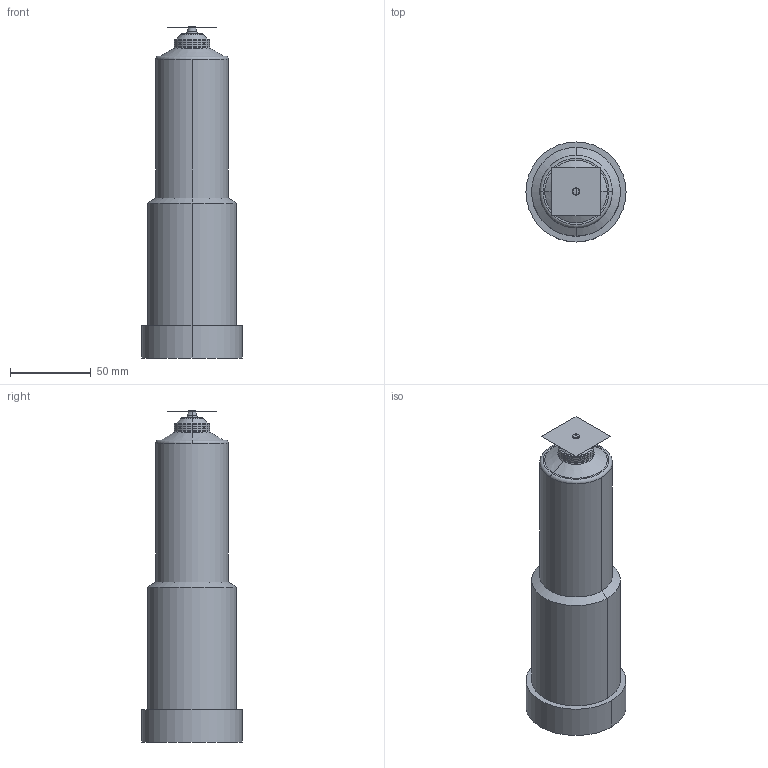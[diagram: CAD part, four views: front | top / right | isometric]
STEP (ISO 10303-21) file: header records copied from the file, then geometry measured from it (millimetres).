
FILE_DESCRIPTION (( 'STEP AP214' ), '1' );
FILE_NAME ('16EX22-03-205-VTW.STEP', '2022-03-09T13:46:23', ( '' ), ( '' ), 'SwSTEP 2.0', 'SolidWorks 2018', '' );
FILE_SCHEMA (( 'AUTOMOTIVE_DESIGN' ));
Length unit declared in the file: millimetre
Products named in the file (3): 16EX22-03-205-VTW; nozzle_16EX22-03-205-VTW; cutout_16EX22-03-205-VTW
Assembly tree (2 placements, depth 2):
  16EX22-03-205-VTW
    nozzle_16EX22-03-205-VTW
    cutout_16EX22-03-205-VTW
Bounding box: 62 x 62 x 205.65 mm (x, y, z)
Volume: 393344.7 mm3; surface area: 115246.1 mm2
Topology: 1 solids, 4 shells, 437 faces, 1162 edges, 707 vertices
Faces by surface type: cylinder 156, plane 154, torus 71, cone 50, sphere 4, bspline 2
Entity records: 14702 total; most frequent: CARTESIAN_POINT 3420, DIRECTION 2511, ORIENTED_EDGE 2312, EDGE_CURVE 1158, AXIS2_PLACEMENT_3D 1000, VERTEX_POINT 705, CIRCLE 559, VECTOR 511
